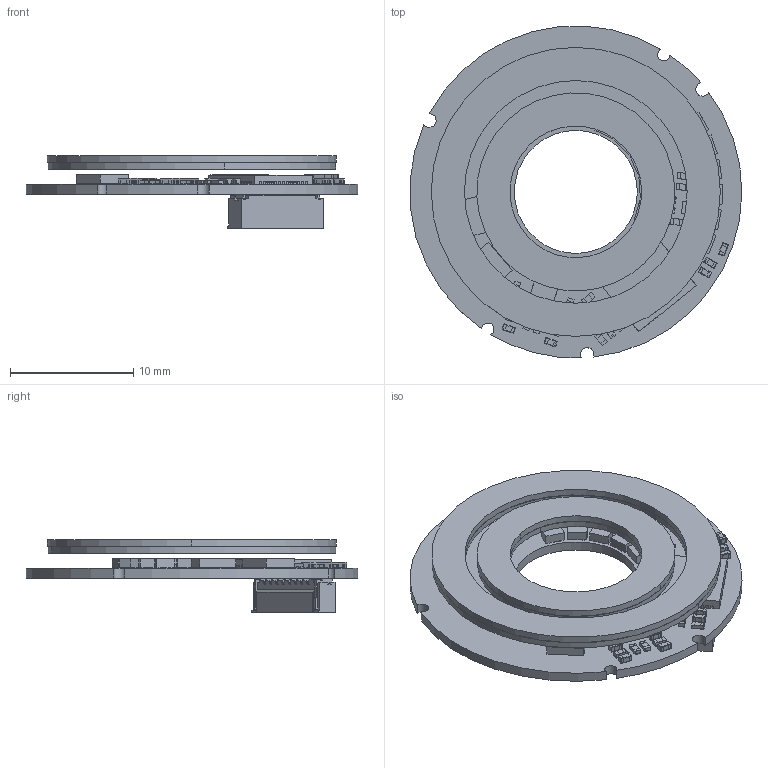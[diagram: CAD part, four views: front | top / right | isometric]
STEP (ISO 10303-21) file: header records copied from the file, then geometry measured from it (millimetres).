
FILE_DESCRIPTION((''),'2;1');
FILE_NAME('EAS-J030KP-HD耀倰_ASM','2026-06-11T',('guxinfeng'),(''),'PRO/ENGINEER BY PARAMETRIC TECHNOLOGY CORPORATION, 2012480','PRO/ENGINEER BY PARAMETRIC TECHNOLOGY CORPORATION, 2012480','');
FILE_SCHEMA(('CONFIG_CONTROL_DESIGN'));
Products named in the file (180): S1-278; S1-381; S1-484; 0_ASM; PDW_10_7_16_1_1_1_18_ASM; S1-470; S1-609; S1-712; ASM0053_ASM; P8N_18_1_23_5_1_1_38_ASM; OPEN_CASCADE_STEP_TRANSLATO-238; ASM0002_ASM; OPEN_CASCADE_STEP_TRANSLATO-729; OPEN_CASCADE_STEP_TRANSLAT-1202; TERMINAL-715_ASM; OPEN_CASCADE_STEP_TRANSLAT-1698; MID_BODY-1688_ASM; 10463178256_ASM; ASM0003_ASM; ASM0004_ASM; OPEN_CASCADE_STEP_TRANSLAT-2112; OPEN_CASCADE_STEP_TRANSLAT-2585; TERMINAL-2098_ASM; OPEN_CASCADE_STEP_TRANSLAT-3081; MID_BODY-3071_ASM; 6191620464_ASM; ASM0005_ASM; OPEN_CASCADE_STEP_TRANSLAT-3467; OPEN_CASCADE_STEP_TRANSLAT-3940; TERMINAL-3453_ASM; OPEN_CASCADE_STEP_TRANSLAT-4436; MID_BODY-4426_ASM; 9251707616_ASM; ASM0006_ASM; ASM0007_ASM; OPEN_CASCADE_STEP_TRANSLAT-4850; OPEN_CASCADE_STEP_TRANSLAT-5323; TERMINAL-4836_ASM; OPEN_CASCADE_STEP_TRANSLAT-5819; MID_BODY-5809_ASM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
Assembly tree (213 placements, depth 7):
  EAS-J030KP-HD耀倰_ASM
    PDW_10_7_16_1_1_1_18_ASM
      0_ASM
        S1-278
        S1-381
        S1-484
    P8N_18_1_23_5_1_1_38_ASM
      ASM0053_ASM
        S1-470
        S1-609
        S1-712
    EAS-J030KP-HD_V1_0_ASM
      ASM0001_ASM
        ASM0002_ASM
          OPEN_CASCADE_STEP_TRANSLATO-238
        ASM0003_ASM
          10463178256_ASM
            TERMINAL-715_ASM
              OPEN_CASCADE_STEP_TRANSLATO-729
              OPEN_CASCADE_STEP_TRANSLAT-1202
            MID_BODY-1688_ASM
              OPEN_CASCADE_STEP_TRANSLAT-1698
        ASM0004_ASM
          10463178256_ASM
            TERMINAL-715_ASM
              OPEN_CASCADE_STEP_TRANSLATO-729
              OPEN_CASCADE_STEP_TRANSLAT-1202
            MID_BODY-1688_ASM
              OPEN_CASCADE_STEP_TRANSLAT-1698
        ASM0005_ASM
          6191620464_ASM
            TERMINAL-2098_ASM
              OPEN_CASCADE_STEP_TRANSLAT-2112
              OPEN_CASCADE_STEP_TRANSLAT-2585
            MID_BODY-3071_ASM
              OPEN_CASCADE_STEP_TRANSLAT-3081
        ASM0006_ASM
          9251707616_ASM
            TERMINAL-3453_ASM
              OPEN_CASCADE_STEP_TRANSLAT-3467
              OPEN_CASCADE_STEP_TRANSLAT-3940
            MID_BODY-4426_ASM
              OPEN_CASCADE_STEP_TRANSLAT-4436
        ASM0007_ASM
          9251707616_ASM
            TERMINAL-3453_ASM
              OPEN_CASCADE_STEP_TRANSLAT-3467
              OPEN_CASCADE_STEP_TRANSLAT-3940
            MID_BODY-4426_ASM
              OPEN_CASCADE_STEP_TRANSLAT-4436
        ASM0008_ASM
          6188855744_ASM
            TERMINAL-4836_ASM
              OPEN_CASCADE_STEP_TRANSLAT-4850
              OPEN_CASCADE_STEP_TRANSLAT-5323
            MID_BODY-5809_ASM
              OPEN_CASCADE_STEP_TRANSLAT-5819
        ASM0009_ASM
          6188855744_ASM
            TERMINAL-4836_ASM
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Bounding box: 26.97 x 26.97 x 5.93 mm (x, y, z)
Volume: 789.6 mm3; surface area: 3563 mm2
Topology: 150 solids, 150 shells, 3618 faces, 9841 edges, 6336 vertices
Faces by surface type: plane 2784, cylinder 702, sphere 128, cone 4
Entity records: 100974 total; most frequent: CARTESIAN_POINT 14098, DIRECTION 13319, ORIENTED_EDGE 13114, PRESENTATION_STYLE_ASSIGNMENT 6703, STYLED_ITEM 6595, EDGE_CURVE 6557, CURVE_STYLE 6485, VECTOR 5569
